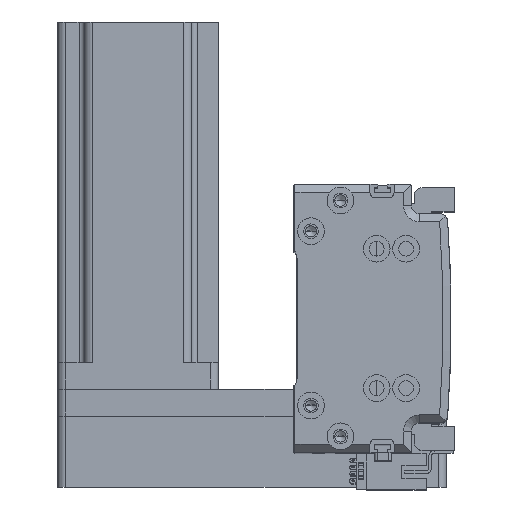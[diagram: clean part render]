
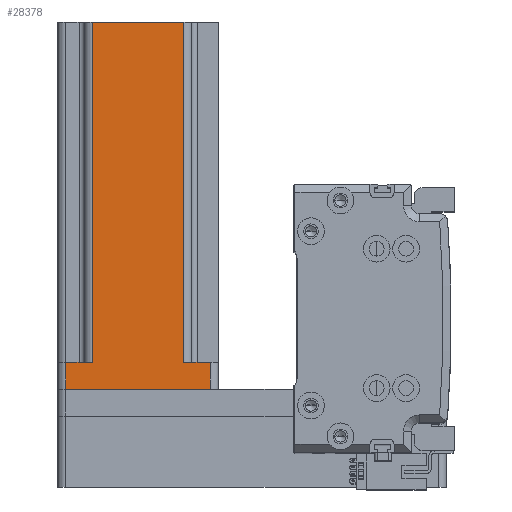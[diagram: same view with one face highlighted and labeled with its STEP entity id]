
A CAD part, top view. The second image highlights one B-rep face of the part: STEP entity #28378.
In plain terms, the highlighted planar face has unit normal (0, 0, 1) as drawn and (0, 1, 0) by its records, which use the part's own axes.
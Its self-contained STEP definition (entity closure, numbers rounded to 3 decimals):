
#536 = EDGE_LOOP ( 'NONE', ( #41015, #37711, #18851, #36290, #36418, #29350, #8408, #37571 ) ) ;
#1121 = LINE ( 'NONE', #2899, #36637 ) ;
#2899 = CARTESIAN_POINT ( 'NONE',  ( -17., 30., 137. ) ) ;
#3633 = DIRECTION ( 'NONE',  ( 1., 0., 0. ) ) ;
#3792 = CARTESIAN_POINT ( 'NONE',  ( 20., 30., 10. ) ) ;
#4118 = LINE ( 'NONE', #41938, #38552 ) ;
#4369 = EDGE_CURVE ( 'NONE', #4914, #17681, #1121, .T. ) ;
#4655 = VERTEX_POINT ( 'NONE', #7200 ) ;
#4914 = VERTEX_POINT ( 'NONE', #32621 ) ;
#5583 = VECTOR ( 'NONE', #32133, 1000. ) ;
#6612 = VERTEX_POINT ( 'NONE', #14181 ) ;
#7200 = CARTESIAN_POINT ( 'NONE',  ( 27., 30., 10. ) ) ;
#7428 = DIRECTION ( 'NONE',  ( -1., 0., 0. ) ) ;
#7592 = EDGE_CURVE ( 'NONE', #6612, #17681, #19880, .T. ) ;
#7907 = VECTOR ( 'NONE', #7428, 1000. ) ;
#8408 = ORIENTED_EDGE ( 'NONE', *, *, #16137, .T. ) ;
#9629 = VECTOR ( 'NONE', #34358, 1000. ) ;
#9740 = DIRECTION ( 'NONE',  ( 0., 0., -1. ) ) ;
#10149 = FACE_OUTER_BOUND ( 'NONE', #536, .T. ) ;
#10235 = EDGE_CURVE ( 'NONE', #4655, #36868, #4118, .T. ) ;
#12600 = DIRECTION ( 'NONE',  ( 0., -1., 0. ) ) ;
#12885 = CARTESIAN_POINT ( 'NONE',  ( 17., 30., 137. ) ) ;
#14181 = CARTESIAN_POINT ( 'NONE',  ( 17., 30., 137. ) ) ;
#14758 = LINE ( 'NONE', #35415, #5583 ) ;
#16137 = EDGE_CURVE ( 'NONE', #36868, #20384, #14758, .T. ) ;
#16483 = CARTESIAN_POINT ( 'NONE',  ( -27., 30., 10. ) ) ;
#17681 = VERTEX_POINT ( 'NONE', #31688 ) ;
#18851 = ORIENTED_EDGE ( 'NONE', *, *, #7592, .F. ) ;
#19394 = PLANE ( 'NONE',  #43486 ) ;
#19880 = LINE ( 'NONE', #41218, #9629 ) ;
#20384 = VERTEX_POINT ( 'NONE', #33315 ) ;
#22098 = VERTEX_POINT ( 'NONE', #16483 ) ;
#24048 = CARTESIAN_POINT ( 'NONE',  ( -27., 30., 137. ) ) ;
#24352 = DIRECTION ( 'NONE',  ( 0., 0., 1. ) ) ;
#24354 = VECTOR ( 'NONE', #3633, 1000. ) ;
#26258 = LINE ( 'NONE', #3792, #7907 ) ;
#26871 = CARTESIAN_POINT ( 'NONE',  ( 17., 30., 10. ) ) ;
#27016 = DIRECTION ( 'NONE',  ( 0., 0., 1. ) ) ;
#27331 = VERTEX_POINT ( 'NONE', #26871 ) ;
#27451 = EDGE_CURVE ( 'NONE', #22098, #4914, #35584, .T. ) ;
#28378 = ADVANCED_FACE ( 'NONE', ( #10149 ), #19394, .F. ) ;
#28443 = EDGE_CURVE ( 'NONE', #6612, #27331, #33826, .T. ) ;
#29350 = ORIENTED_EDGE ( 'NONE', *, *, #10235, .T. ) ;
#30560 = CARTESIAN_POINT ( 'NONE',  ( 27., 30., 0. ) ) ;
#30958 = EDGE_CURVE ( 'NONE', #4655, #27331, #26258, .T. ) ;
#31688 = CARTESIAN_POINT ( 'NONE',  ( -17., 30., 137. ) ) ;
#32133 = DIRECTION ( 'NONE',  ( -1., 0., 0. ) ) ;
#32621 = CARTESIAN_POINT ( 'NONE',  ( -17., 30., 10. ) ) ;
#33241 = CARTESIAN_POINT ( 'NONE',  ( 30., 30., 137. ) ) ;
#33315 = CARTESIAN_POINT ( 'NONE',  ( -27., 30., 0. ) ) ;
#33826 = LINE ( 'NONE', #12885, #41834 ) ;
#34092 = LINE ( 'NONE', #24048, #42098 ) ;
#34256 = EDGE_CURVE ( 'NONE', #20384, #22098, #34092, .T. ) ;
#34358 = DIRECTION ( 'NONE',  ( -1., 0., 0. ) ) ;
#34467 = CARTESIAN_POINT ( 'NONE',  ( -20., 30., 10. ) ) ;
#35415 = CARTESIAN_POINT ( 'NONE',  ( 30., 30., 0. ) ) ;
#35584 = LINE ( 'NONE', #34467, #24354 ) ;
#36290 = ORIENTED_EDGE ( 'NONE', *, *, #28443, .T. ) ;
#36418 = ORIENTED_EDGE ( 'NONE', *, *, #30958, .F. ) ;
#36636 = DIRECTION ( 'NONE',  ( 1., 0., 0. ) ) ;
#36637 = VECTOR ( 'NONE', #27016, 1000. ) ;
#36868 = VERTEX_POINT ( 'NONE', #30560 ) ;
#37571 = ORIENTED_EDGE ( 'NONE', *, *, #34256, .T. ) ;
#37711 = ORIENTED_EDGE ( 'NONE', *, *, #4369, .T. ) ;
#38516 = DIRECTION ( 'NONE',  ( 0., 0., -1. ) ) ;
#38552 = VECTOR ( 'NONE', #38516, 1000. ) ;
#41015 = ORIENTED_EDGE ( 'NONE', *, *, #27451, .T. ) ;
#41218 = CARTESIAN_POINT ( 'NONE',  ( 30., 30., 137. ) ) ;
#41834 = VECTOR ( 'NONE', #9740, 1000. ) ;
#41938 = CARTESIAN_POINT ( 'NONE',  ( 27., 30., 137. ) ) ;
#42098 = VECTOR ( 'NONE', #24352, 1000. ) ;
#43486 = AXIS2_PLACEMENT_3D ( 'NONE', #33241, #12600, #36636 ) ;
